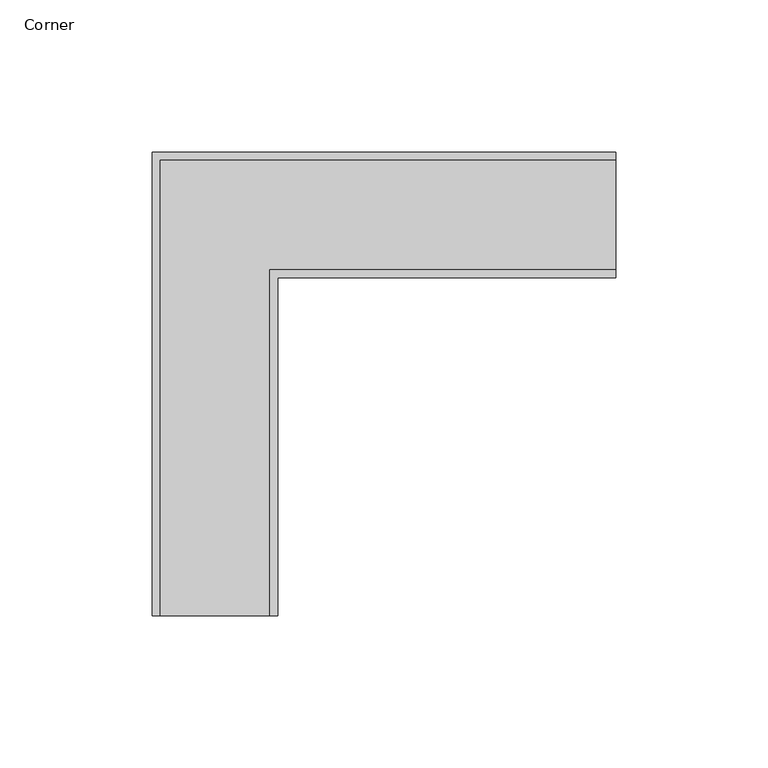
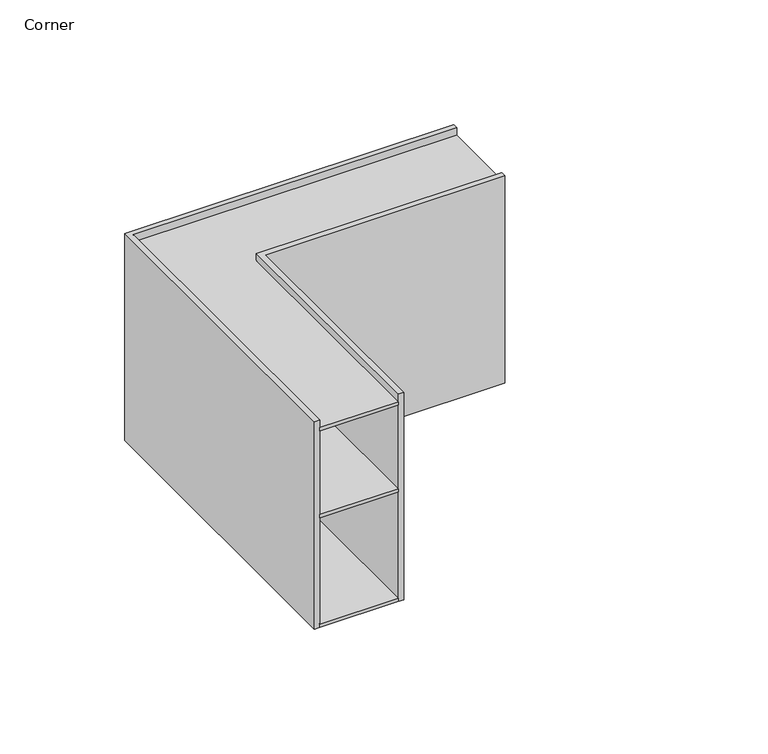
"""IFC4 building model written with IfcOpenShell, lengths in millimetres: light fixture geometry, Lighting-Pendant-Betacalco-Block-Corner : Corner."""

import ifcopenshell
import ifcopenshell.guid

model = None  # the IFC model being written
_history = None  # IfcOwnerHistory: only IFC2X3 demands one
_inside = {}  # id of a spatial element -> (the spatial element, [elements in it])
_under = {}  # id of a project, library or spatial element -> (it, [spatial elements below it])
_declared = {}  # id of a project -> (the project, [libraries it declares])
_typed = {}  # id of a type object -> (the type object, [elements of that type])
_made_of = {}  # id of a material, layer set ... -> (it, [elements and type objects made of it])


def new_model(schema):
    """Start an empty IFC model of exactly this schema.

    Asked for "IFC4X3", IfcOpenShell would pick the latest addendum, in which some entities
    have other attributes; the version numbers below select the first issue.
    IFC2X3 requires an IfcOwnerHistory on every rooted entity: one is made here for all.
    """
    global model, _history
    if schema == "IFC4X3":
        model = ifcopenshell.file(schema_version=(4, 3, 0, 0))
    else:
        model = ifcopenshell.file(schema=schema)
    _inside.clear()
    _under.clear()
    _declared.clear()
    _typed.clear()
    _made_of.clear()
    _history = None
    if model.schema == "IFC2X3":
        org = make("IfcOrganization", Name="unknown")
        user = make(
            "IfcPersonAndOrganization",
            ThePerson=make("IfcPerson", FamilyName="unknown"),
            TheOrganization=org,
        )
        app = make(
            "IfcApplication",
            ApplicationDeveloper=org,
            Version="unknown",
            ApplicationFullName="unknown",
            ApplicationIdentifier="unknown",
        )
        _history = make(
            "IfcOwnerHistory",
            OwningUser=user,
            OwningApplication=app,
            ChangeAction="ADDED",
            CreationDate=0,
        )
    return model


def make(cls, **values):
    """One entity of the class cls with the attributes given. An attribute that is None is left unset."""
    return model.create_entity(
        cls, **{name: value for name, value in values.items() if value is not None}
    )


def rooted(cls, **values):
    """An entity with a GlobalId (a new one), such as an element, a storey or a relation."""
    return make(cls, GlobalId=ifcopenshell.guid.new(), OwnerHistory=_history, **values)


def si_unit(unit_type, name, prefix=None):
    """IfcSIUnit, for example si_unit("LENGTHUNIT", "METRE", prefix="MILLI")."""
    return make("IfcSIUnit", UnitType=unit_type, Prefix=prefix, Name=name)


def assignment(units):
    """IfcUnitAssignment: the units of a project."""
    return None if units is None else make("IfcUnitAssignment", Units=units)


def point(xyz):
    """IfcCartesianPoint."""
    return None if xyz is None else make("IfcCartesianPoint", Coordinates=xyz)


def direction(xyz):
    """IfcDirection."""
    return None if xyz is None else make("IfcDirection", DirectionRatios=xyz)


def frame(location, z_axis=None, x_axis=None):
    """IfcAxis2Placement3D, a coordinate frame: its origin and axes. An axis left out is left unset."""
    return make(
        "IfcAxis2Placement3D",
        Location=point(location),
        Axis=direction(z_axis),
        RefDirection=direction(x_axis),
    )


def origin():
    """The frame at (0, 0, 0) with its axes left unset."""
    return frame((0.0, 0.0, 0.0))


def place(relative_to, where):
    """IfcLocalPlacement: puts the frame where relative to a parent placement (None: the world)."""
    return make(
        "IfcLocalPlacement", PlacementRelTo=relative_to, RelativePlacement=where
    )


def context(
    kind, dimensions, precision=None, world=None, true_north=None, identifier=None
):
    """IfcGeometricRepresentationContext, for example the 3D "Model" context."""
    return make(
        "IfcGeometricRepresentationContext",
        ContextIdentifier=identifier,
        ContextType=kind,
        CoordinateSpaceDimension=dimensions,
        Precision=precision,
        WorldCoordinateSystem=world,
        TrueNorth=true_north,
    )


def project(units=None, contexts=None):
    """IfcProject with its units and contexts."""
    return rooted(
        "IfcProject",
        Name="project",
        RepresentationContexts=contexts,
        UnitsInContext=assignment(units),
    )


def spatial(cls, under=None, at=None, **own):
    """A site, building, storey or space (cls), placed at a placement, below another one or the project."""
    s = rooted(cls, ObjectPlacement=at, **own)
    if under is not None:
        _under.setdefault(under.id(), (under, []))[1].append(s)
    return s


def polyline(points):
    """IfcPolyline through the points."""
    return make("IfcPolyline", Points=[point(p) for p in points])


def outline(outer, holes=None, kind="AREA"):
    """IfcArbitraryClosedProfileDef: a profile drawn as a closed curve; with holes, ...WithVoids."""
    if holes is None:
        return make("IfcArbitraryClosedProfileDef", ProfileType=kind, OuterCurve=outer)
    return make(
        "IfcArbitraryProfileDefWithVoids",
        ProfileType=kind,
        OuterCurve=outer,
        InnerCurves=holes,
    )


def extrude(swept, where, along, depth):
    """IfcExtrudedAreaSolid: the profile swept, set in the frame where, extruded along a direction by depth."""
    return make(
        "IfcExtrudedAreaSolid",
        SweptArea=swept,
        Position=where,
        ExtrudedDirection=direction(along),
        Depth=depth,
    )


def shape(context_of_items, identifier, shape_type, items):
    """IfcShapeRepresentation: the items that make up one representation, for example the "Body"."""
    return make(
        "IfcShapeRepresentation",
        ContextOfItems=context_of_items,
        RepresentationIdentifier=identifier,
        RepresentationType=shape_type,
        Items=items,
    )


def source(mapping_origin, context_of_items, identifier, shape_type, items):
    """IfcRepresentationMap: a shape defined once, which mapped items show again and again."""
    return make(
        "IfcRepresentationMap",
        MappingOrigin=mapping_origin,
        MappedRepresentation=shape(context_of_items, identifier, shape_type, items),
    )


def transform(
    local_origin,
    x_axis=None,
    y_axis=None,
    z_axis=None,
    scale=None,
    scale2=None,
    scale3=None,
    uniform=True,
):
    """IfcCartesianTransformationOperator3D, or its non-uniform kind. x_axis, y_axis, z_axis: its Axis1, 2, 3."""
    if uniform:
        return make(
            "IfcCartesianTransformationOperator3D",
            Axis1=direction(x_axis),
            Axis2=direction(y_axis),
            LocalOrigin=point(local_origin),
            Scale=scale,
            Axis3=direction(z_axis),
        )
    return make(
        "IfcCartesianTransformationOperator3DnonUniform",
        Axis1=direction(x_axis),
        Axis2=direction(y_axis),
        LocalOrigin=point(local_origin),
        Scale=scale,
        Axis3=direction(z_axis),
        Scale2=scale2,
        Scale3=scale3,
    )


def mapped(mapping_source, mapping_target):
    """IfcMappedItem: shows the shape of a source again, moved by a transform."""
    return make(
        "IfcMappedItem", MappingSource=mapping_source, MappingTarget=mapping_target
    )


def made_of(thing, what):
    """Note that an element or type object is made of a material, layer set ...; save() writes the relation."""
    if what is not None:
        _made_of.setdefault(what.id(), (what, []))[1].append(thing)
    return thing


def element(
    cls,
    number,
    at=None,
    inside=None,
    cuts=None,
    type_object=None,
    material=None,
    context=None,
    identifier="Body",
    shape_type=None,
    held_by="IfcProductDefinitionShape",
    body=None,
    shapes=None,
    **own,
):
    """One element of the class cls, such as IfcWall. Its Tag is "e" and its number.

    at: its placement. inside: the storey or other place that contains it. cuts: it is an
    opening in that element (IfcRelVoidsElement). A single representation is given by context,
    identifier, shape_type and body (its items); several are given by shapes. held_by: the class
    of the entity that holds the representations. save() writes the other relations.
    """
    e = rooted(cls, Tag="e%d" % number, ObjectPlacement=at, **own)
    if body is not None:
        shapes = [shape(context, identifier, shape_type, body)]
    if shapes is not None:
        e.Representation = make(held_by, Representations=shapes)
    if inside is not None:
        _inside.setdefault(inside.id(), (inside, []))[1].append(e)
    if cuts is not None:
        rooted(
            "IfcRelVoidsElement", RelatingBuildingElement=cuts, RelatedOpeningElement=e
        )
    if type_object is not None:
        _typed.setdefault(type_object.id(), (type_object, []))[1].append(e)
    return made_of(e, material)


def aggregate(whole, parts):
    """IfcRelAggregates: a whole, such as a stair, and the parts it consists of."""
    return rooted("IfcRelAggregates", RelatingObject=whole, RelatedObjects=parts)


def save(model, path):
    """Write the relations noted so far, then the file.

    IfcRelAggregates (storeys below a building ...), IfcRelContainedInSpatialStructure (elements
    in a storey), IfcRelDefinesByType, IfcRelAssociatesMaterial and IfcRelDeclares: one each for
    every whole, place, type object, material and project.
    """
    for whole, parts in _under.values():
        aggregate(whole, parts)
    for where, things in _inside.values():
        rooted(
            "IfcRelContainedInSpatialStructure",
            RelatedElements=things,
            RelatingStructure=where,
        )
    for kind, things in _typed.values():
        rooted("IfcRelDefinesByType", RelatedObjects=things, RelatingType=kind)
    for what, things in _made_of.values():
        rooted("IfcRelAssociatesMaterial", RelatedObjects=things, RelatingMaterial=what)
    for by, libraries in _declared.values():
        rooted("IfcRelDeclares", RelatingContext=by, RelatedDefinitions=libraries)
    model.write(path)


def corner_59c24696(model_context):
    return source(origin(), model_context, "Body", "SweptSolid", [
        extrude(outline(polyline([(131.7625, 18.0975), (131.7625, -18.0975), (18.0975, -18.0975), (18.0975, -131.7625), (-18.0975, -131.7625), (-18.0975, 18.0975), (131.7625, 18.0975)])), frame((0.0, 0.0, 609.6), z_axis=(0.0, 0.0, 1.0), x_axis=(1.0, 0.0, 0.0)), (0.0, 0.0, 1.0), 1.5875),
        extrude(outline(polyline([(131.7625, 18.0975), (131.7625, -18.0975), (18.0975, -18.0975), (18.0975, -131.7625), (-18.0975, -131.7625), (-18.0975, 18.0975), (131.7625, 18.0975)])), frame((0.0, 0.0, 663.287913), z_axis=(0.0, 0.0, 1.0), x_axis=(1.0, 0.0, 0.0)), (0.0, 0.0, 1.0), 1.5875),
        extrude(outline(polyline([(131.7625, 18.0975), (131.7625, -18.0975), (18.0975, -18.0975), (18.0975, -131.7625), (-18.0975, -131.7625), (-18.0975, 18.0975), (131.7625, 18.0975)])), frame((0.0, 0.0, 705.9095588), z_axis=(0.0, 0.0, 1.0), x_axis=(1.0, 0.0, 0.0)), (0.0, 0.0, 1.0), 1.5875),
        extrude(outline(polyline([(131.7625, 20.6375), (131.7625, 18.0975), (-18.0975, 18.0975), (-18.0975, -131.7625), (-20.6375, -131.7625), (-20.6375, 20.6375), (131.7625, 20.6375)])), frame((0.0, 0.0, 609.6), z_axis=(0.0, 0.0, 1.0), x_axis=(1.0, 0.0, 0.0)), (0.0, 0.0, 1.0), 101.6),
        extrude(outline(polyline([(131.7625, -18.0975), (131.7625, -20.6375), (20.6375, -20.6375), (20.6375, -131.7625), (18.0975, -131.7625), (18.0975, -18.0975), (131.7625, -18.0975)])), frame((0.0, 0.0, 609.6), z_axis=(0.0, 0.0, 1.0), x_axis=(1.0, 0.0, 0.0)), (0.0, 0.0, 1.0), 101.6),
    ])


if __name__ == "__main__":
    model = new_model("IFC4")
    model_context = context("Model", 3, world=origin())
    ifc_project = project(units=[si_unit("LENGTHUNIT", "METRE", prefix="MILLI")], contexts=[model_context])
    site = spatial("IfcSite", under=ifc_project)
    building = spatial("IfcBuilding", under=site)
    placement = place(None, origin())
    corner_shape = corner_59c24696(model_context)
    element("IfcLightFixture", 1, ObjectType="Lighting-Pendant-Betacalco-Block-Corner : Corner", at=placement, inside=building, context=model_context, shape_type="MappedRepresentation", body=[
        mapped(corner_shape, transform((0.0, 0.0, 0.0), x_axis=(1.0, 0.0, 0.0), y_axis=(0.0, 1.0, 0.0), z_axis=(0.0, 0.0, 1.0))),
    ])
    save(model, "model.ifc")
